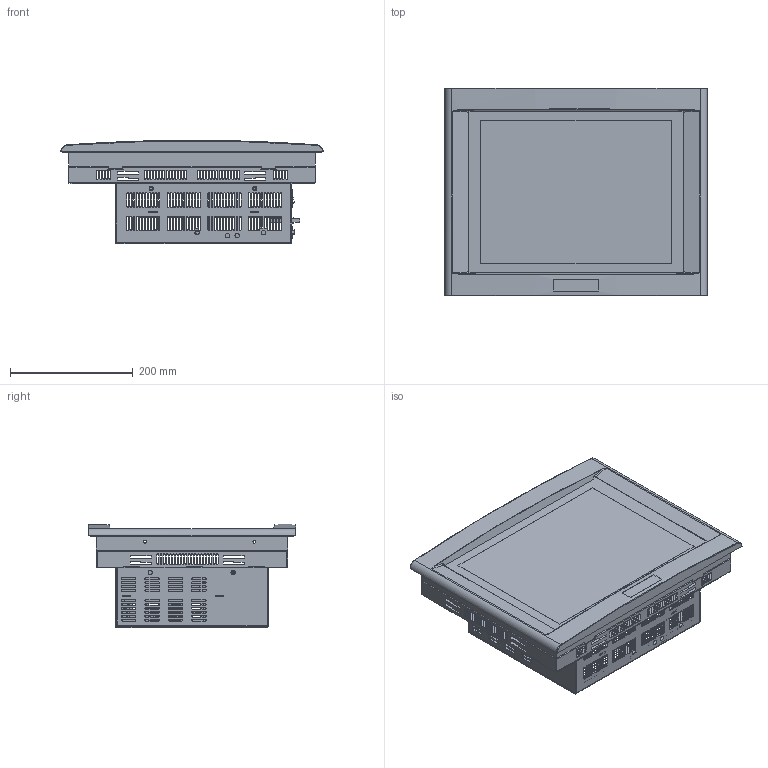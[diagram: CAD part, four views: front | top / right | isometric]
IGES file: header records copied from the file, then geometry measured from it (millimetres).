
Start section:  PTC IGES file: day_15_slim.igs
Global section: file name: day_15_slim.igs; native system: Pro/ENGINEER by Parametric Technology Corporation; preprocessor: 2000100; author: srollman; organization: Unknown; date: 050106.164838; units: inch
Bounding box: 426.97 x 338.07 x 168.16 mm (x, y, z)
Surface area: 486264.8 mm2 (no closed solid volume)
Topology: 0 solids, 0 shells, 178 faces, 3854 edges, 3851 vertices
Faces by surface type: bspline 140, revolution 38
